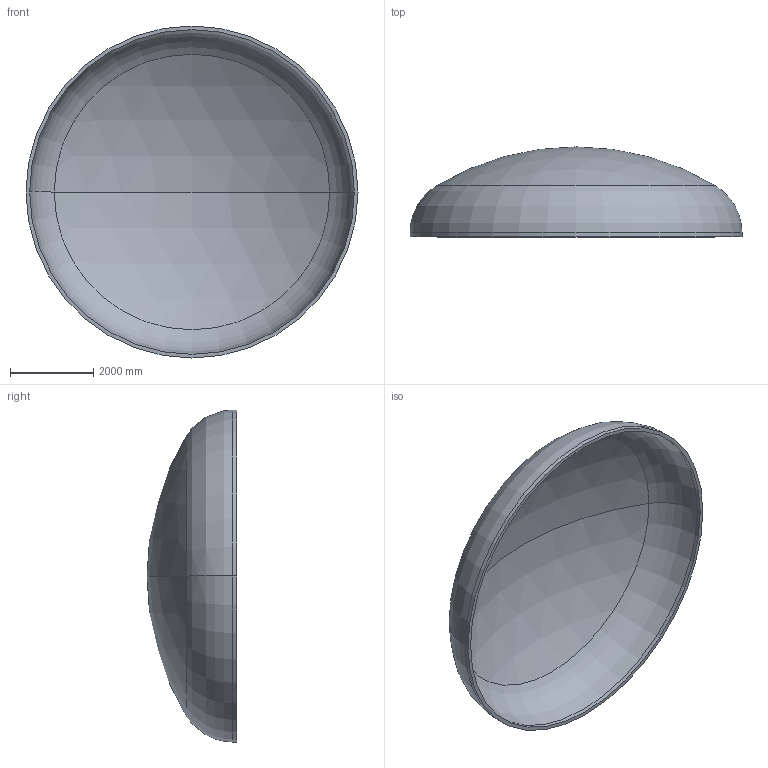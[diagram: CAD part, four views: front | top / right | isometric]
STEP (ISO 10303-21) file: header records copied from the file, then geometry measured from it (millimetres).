
FILE_DESCRIPTION (( 'STEP AP203' ), '1' );
FILE_NAME ('DIN 28013 Korbbogenform_-_Boden DIN 28013 - 8000 x 100 - I - s=88.step', '2016-07-04T11:04:27', ( '' ), ( '' ), 'SwSTEP 2.0', 'SolidWorks 2013', '' );
FILE_SCHEMA (( 'CONFIG_CONTROL_DESIGN' ));
Length unit declared in the file: millimetre
Products named in the file (1): DIN 28013 Korbbogenform_-_Boden DIN 28013 - 8000 x 100 - I - s=88
Bounding box: 8000 x 2168.07 x 8000 mm (x, y, z)
Volume: 6254632536 mm3; surface area: 144354255.9 mm2
Topology: 1 solids, 1 shells, 13 faces, 24 edges, 14 vertices
Faces by surface type: torus 4, cylinder 4, sphere 4, plane 1
Entity records: 407 total; most frequent: DIRECTION 72, CARTESIAN_POINT 52, ORIENTED_EDGE 48, AXIS2_PLACEMENT_3D 34, EDGE_CURVE 24, CIRCLE 20, EDGE_LOOP 14, VERTEX_POINT 14
